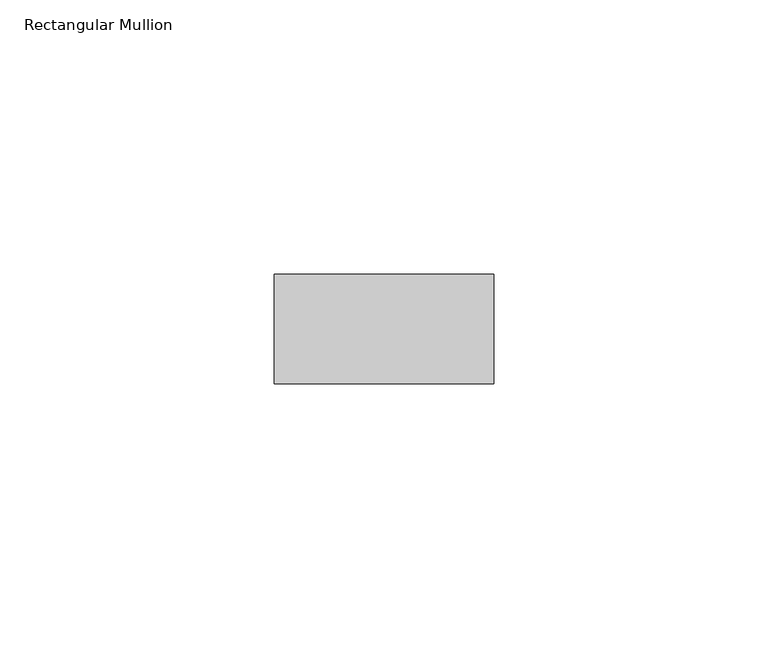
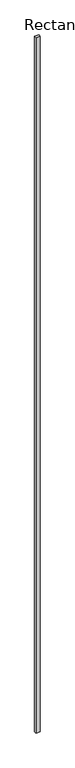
"""IFC4 building model written with IfcOpenShell, lengths in millimetres: member geometry, Rectangular Mullion : RIPA 4x2 cm."""

import ifcopenshell
import ifcopenshell.guid

model = None  # the IFC model being written
_history = None  # IfcOwnerHistory: only IFC2X3 demands one
_inside = {}  # id of a spatial element -> (the spatial element, [elements in it])
_under = {}  # id of a project, library or spatial element -> (it, [spatial elements below it])
_declared = {}  # id of a project -> (the project, [libraries it declares])
_typed = {}  # id of a type object -> (the type object, [elements of that type])
_made_of = {}  # id of a material, layer set ... -> (it, [elements and type objects made of it])


def new_model(schema):
    """Start an empty IFC model of exactly this schema.

    Asked for "IFC4X3", IfcOpenShell would pick the latest addendum, in which some entities
    have other attributes; the version numbers below select the first issue.
    IFC2X3 requires an IfcOwnerHistory on every rooted entity: one is made here for all.
    """
    global model, _history
    if schema == "IFC4X3":
        model = ifcopenshell.file(schema_version=(4, 3, 0, 0))
    else:
        model = ifcopenshell.file(schema=schema)
    _inside.clear()
    _under.clear()
    _declared.clear()
    _typed.clear()
    _made_of.clear()
    _history = None
    if model.schema == "IFC2X3":
        org = make("IfcOrganization", Name="unknown")
        user = make(
            "IfcPersonAndOrganization",
            ThePerson=make("IfcPerson", FamilyName="unknown"),
            TheOrganization=org,
        )
        app = make(
            "IfcApplication",
            ApplicationDeveloper=org,
            Version="unknown",
            ApplicationFullName="unknown",
            ApplicationIdentifier="unknown",
        )
        _history = make(
            "IfcOwnerHistory",
            OwningUser=user,
            OwningApplication=app,
            ChangeAction="ADDED",
            CreationDate=0,
        )
    return model


def make(cls, **values):
    """One entity of the class cls with the attributes given. An attribute that is None is left unset."""
    return model.create_entity(
        cls, **{name: value for name, value in values.items() if value is not None}
    )


def rooted(cls, **values):
    """An entity with a GlobalId (a new one), such as an element, a storey or a relation."""
    return make(cls, GlobalId=ifcopenshell.guid.new(), OwnerHistory=_history, **values)


def si_unit(unit_type, name, prefix=None):
    """IfcSIUnit, for example si_unit("LENGTHUNIT", "METRE", prefix="MILLI")."""
    return make("IfcSIUnit", UnitType=unit_type, Prefix=prefix, Name=name)


def assignment(units):
    """IfcUnitAssignment: the units of a project."""
    return None if units is None else make("IfcUnitAssignment", Units=units)


def point(xyz):
    """IfcCartesianPoint."""
    return None if xyz is None else make("IfcCartesianPoint", Coordinates=xyz)


def direction(xyz):
    """IfcDirection."""
    return None if xyz is None else make("IfcDirection", DirectionRatios=xyz)


def frame(location, z_axis=None, x_axis=None):
    """IfcAxis2Placement3D, a coordinate frame: its origin and axes. An axis left out is left unset."""
    return make(
        "IfcAxis2Placement3D",
        Location=point(location),
        Axis=direction(z_axis),
        RefDirection=direction(x_axis),
    )


def origin():
    """The frame at (0, 0, 0) with its axes left unset."""
    return frame((0.0, 0.0, 0.0))


def place(relative_to, where):
    """IfcLocalPlacement: puts the frame where relative to a parent placement (None: the world)."""
    return make(
        "IfcLocalPlacement", PlacementRelTo=relative_to, RelativePlacement=where
    )


def context(
    kind, dimensions, precision=None, world=None, true_north=None, identifier=None
):
    """IfcGeometricRepresentationContext, for example the 3D "Model" context."""
    return make(
        "IfcGeometricRepresentationContext",
        ContextIdentifier=identifier,
        ContextType=kind,
        CoordinateSpaceDimension=dimensions,
        Precision=precision,
        WorldCoordinateSystem=world,
        TrueNorth=true_north,
    )


def project(units=None, contexts=None):
    """IfcProject with its units and contexts."""
    return rooted(
        "IfcProject",
        Name="project",
        RepresentationContexts=contexts,
        UnitsInContext=assignment(units),
    )


def spatial(cls, under=None, at=None, **own):
    """A site, building, storey or space (cls), placed at a placement, below another one or the project."""
    s = rooted(cls, ObjectPlacement=at, **own)
    if under is not None:
        _under.setdefault(under.id(), (under, []))[1].append(s)
    return s


def polyline(points):
    """IfcPolyline through the points."""
    return make("IfcPolyline", Points=[point(p) for p in points])


def outline(outer, holes=None, kind="AREA"):
    """IfcArbitraryClosedProfileDef: a profile drawn as a closed curve; with holes, ...WithVoids."""
    if holes is None:
        return make("IfcArbitraryClosedProfileDef", ProfileType=kind, OuterCurve=outer)
    return make(
        "IfcArbitraryProfileDefWithVoids",
        ProfileType=kind,
        OuterCurve=outer,
        InnerCurves=holes,
    )


def extrude(swept, where, along, depth):
    """IfcExtrudedAreaSolid: the profile swept, set in the frame where, extruded along a direction by depth."""
    return make(
        "IfcExtrudedAreaSolid",
        SweptArea=swept,
        Position=where,
        ExtrudedDirection=direction(along),
        Depth=depth,
    )


def shape(context_of_items, identifier, shape_type, items):
    """IfcShapeRepresentation: the items that make up one representation, for example the "Body"."""
    return make(
        "IfcShapeRepresentation",
        ContextOfItems=context_of_items,
        RepresentationIdentifier=identifier,
        RepresentationType=shape_type,
        Items=items,
    )


def source(mapping_origin, context_of_items, identifier, shape_type, items):
    """IfcRepresentationMap: a shape defined once, which mapped items show again and again."""
    return make(
        "IfcRepresentationMap",
        MappingOrigin=mapping_origin,
        MappedRepresentation=shape(context_of_items, identifier, shape_type, items),
    )


def transform(
    local_origin,
    x_axis=None,
    y_axis=None,
    z_axis=None,
    scale=None,
    scale2=None,
    scale3=None,
    uniform=True,
):
    """IfcCartesianTransformationOperator3D, or its non-uniform kind. x_axis, y_axis, z_axis: its Axis1, 2, 3."""
    if uniform:
        return make(
            "IfcCartesianTransformationOperator3D",
            Axis1=direction(x_axis),
            Axis2=direction(y_axis),
            LocalOrigin=point(local_origin),
            Scale=scale,
            Axis3=direction(z_axis),
        )
    return make(
        "IfcCartesianTransformationOperator3DnonUniform",
        Axis1=direction(x_axis),
        Axis2=direction(y_axis),
        LocalOrigin=point(local_origin),
        Scale=scale,
        Axis3=direction(z_axis),
        Scale2=scale2,
        Scale3=scale3,
    )


def mapped(mapping_source, mapping_target):
    """IfcMappedItem: shows the shape of a source again, moved by a transform."""
    return make(
        "IfcMappedItem", MappingSource=mapping_source, MappingTarget=mapping_target
    )


def made_of(thing, what):
    """Note that an element or type object is made of a material, layer set ...; save() writes the relation."""
    if what is not None:
        _made_of.setdefault(what.id(), (what, []))[1].append(thing)
    return thing


def element(
    cls,
    number,
    at=None,
    inside=None,
    cuts=None,
    type_object=None,
    material=None,
    context=None,
    identifier="Body",
    shape_type=None,
    held_by="IfcProductDefinitionShape",
    body=None,
    shapes=None,
    **own,
):
    """One element of the class cls, such as IfcWall. Its Tag is "e" and its number.

    at: its placement. inside: the storey or other place that contains it. cuts: it is an
    opening in that element (IfcRelVoidsElement). A single representation is given by context,
    identifier, shape_type and body (its items); several are given by shapes. held_by: the class
    of the entity that holds the representations. save() writes the other relations.
    """
    e = rooted(cls, Tag="e%d" % number, ObjectPlacement=at, **own)
    if body is not None:
        shapes = [shape(context, identifier, shape_type, body)]
    if shapes is not None:
        e.Representation = make(held_by, Representations=shapes)
    if inside is not None:
        _inside.setdefault(inside.id(), (inside, []))[1].append(e)
    if cuts is not None:
        rooted(
            "IfcRelVoidsElement", RelatingBuildingElement=cuts, RelatedOpeningElement=e
        )
    if type_object is not None:
        _typed.setdefault(type_object.id(), (type_object, []))[1].append(e)
    return made_of(e, material)


def aggregate(whole, parts):
    """IfcRelAggregates: a whole, such as a stair, and the parts it consists of."""
    return rooted("IfcRelAggregates", RelatingObject=whole, RelatedObjects=parts)


def save(model, path):
    """Write the relations noted so far, then the file.

    IfcRelAggregates (storeys below a building ...), IfcRelContainedInSpatialStructure (elements
    in a storey), IfcRelDefinesByType, IfcRelAssociatesMaterial and IfcRelDeclares: one each for
    every whole, place, type object, material and project.
    """
    for whole, parts in _under.values():
        aggregate(whole, parts)
    for where, things in _inside.values():
        rooted(
            "IfcRelContainedInSpatialStructure",
            RelatedElements=things,
            RelatingStructure=where,
        )
    for kind, things in _typed.values():
        rooted("IfcRelDefinesByType", RelatedObjects=things, RelatingType=kind)
    for what, things in _made_of.values():
        rooted("IfcRelAssociatesMaterial", RelatedObjects=things, RelatingMaterial=what)
    for by, libraries in _declared.values():
        rooted("IfcRelDeclares", RelatingContext=by, RelatedDefinitions=libraries)
    model.write(path)


def rectangular_mullion_0ffdd734(model_context):
    return source(origin(), model_context, "Body", "SweptSolid", [
        extrude(outline(polyline([(0.0, 0.0), (0.0, -20.0), (-40.0, -20.0), (-40.0, 0.0), (0.0, 0.0)])), frame((0.0, 0.0, -6900.3319094), z_axis=(0.0, 0.0, 1.0), x_axis=(1.0, 0.0, 0.0)), (0.0, 0.0, 1.0), 6900.3319094),
    ])


if __name__ == "__main__":
    model = new_model("IFC4")
    model_context = context("Model", 3, world=origin())
    ifc_project = project(units=[si_unit("LENGTHUNIT", "METRE", prefix="MILLI")], contexts=[model_context])
    site = spatial("IfcSite", under=ifc_project)
    building = spatial("IfcBuilding", under=site)
    placement = place(None, origin())
    rectangular_mullion_shape = rectangular_mullion_0ffdd734(model_context)
    element("IfcMember", 1, ObjectType="Rectangular Mullion : RIPA 4x2 cm", at=placement, inside=building, context=model_context, shape_type="MappedRepresentation", body=[
        mapped(rectangular_mullion_shape, transform((0.0, 0.0, 0.0), x_axis=(1.0, 0.0, 0.0), y_axis=(0.0, 1.0, 0.0), z_axis=(0.0, 0.0, 1.0))),
    ])
    save(model, "model.ifc")
